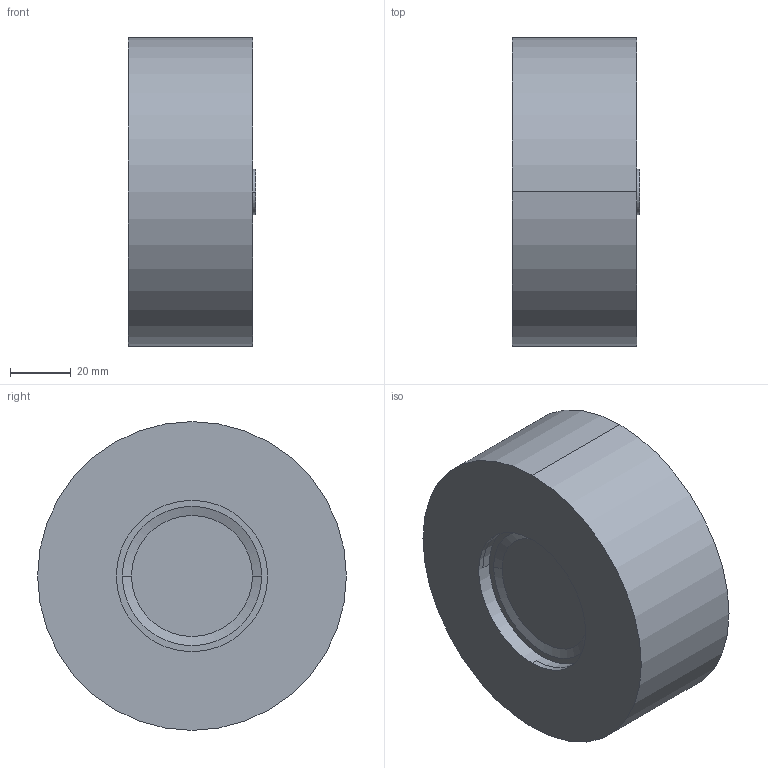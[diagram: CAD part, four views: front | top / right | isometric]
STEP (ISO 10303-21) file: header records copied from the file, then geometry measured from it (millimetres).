
FILE_DESCRIPTION((''),'2;1');
FILE_NAME('CV-16WS_SB_ASM','2026-05-07T',('user'),(''),'PRO/ENGINEER BY PARAMETRIC TECHNOLOGY CORPORATION, 2011220','PRO/ENGINEER BY PARAMETRIC TECHNOLOGY CORPORATION, 2011220','');
FILE_SCHEMA(('CONFIG_CONTROL_DESIGN'));
Length unit declared in the file: millimetre
Products named in the file (5): H71W_KORPUS; H71W_DISK; H71W_KORPUS_2; H71W_PRUZINA; CV-16WS_SB_ASM
Assembly tree (4 placements, depth 2):
  CV-16WS_SB_ASM
    H71W_KORPUS
    H71W_DISK
    H71W_KORPUS_2
    H71W_PRUZINA
Bounding box: 42 x 102 x 102 mm (x, y, z)
Volume: 106196.9 mm3; surface area: 69038.3 mm2
Topology: 4 solids, 6 shells, 74 faces, 174 edges, 114 vertices
Faces by surface type: cylinder 42, plane 20, bspline 8, cone 4
Entity records: 4391 total; most frequent: CARTESIAN_POINT 2497, DIRECTION 404, ORIENTED_EDGE 340, EDGE_CURVE 174, AXIS2_PLACEMENT_3D 169, VERTEX_POINT 114, EDGE_LOOP 90, CIRCLE 90
